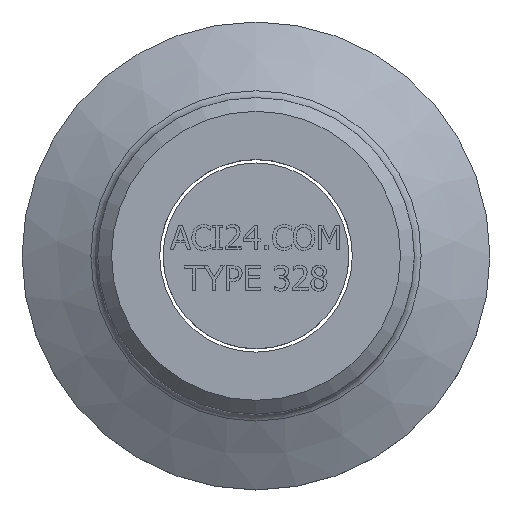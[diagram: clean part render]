
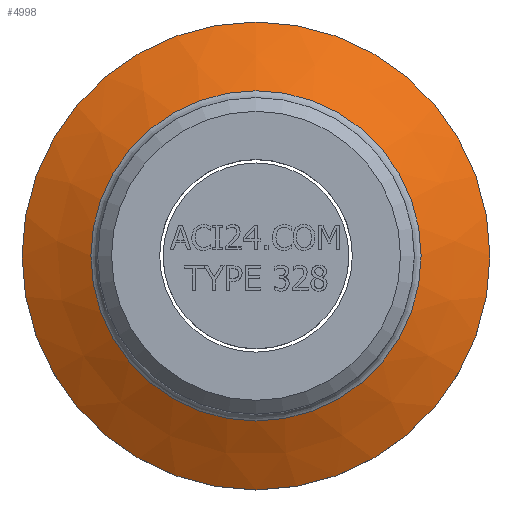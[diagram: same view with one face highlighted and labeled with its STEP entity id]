
A CAD part, top view. The second image highlights one B-rep face of the part: STEP entity #4998.
In plain terms, the highlighted conical face has half-angle 60 degrees and reference radius 14.25 mm.
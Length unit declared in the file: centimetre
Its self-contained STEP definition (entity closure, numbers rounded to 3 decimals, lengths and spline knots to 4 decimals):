
#15=CONICAL_SURFACE('',#5164,1.425,60.);
#30=CIRCLE('',#5163,1.2);
#31=CIRCLE('',#5165,1.7);
#87=FACE_BOUND('',#996,.T.);
#699=FACE_OUTER_BOUND('',#995,.T.);
#995=EDGE_LOOP('',(#4573));
#996=EDGE_LOOP('',(#4574));
#2433=VERTEX_POINT('',#8922);
#2434=VERTEX_POINT('',#8925);
#3149=EDGE_CURVE('',#2433,#2433,#30,.T.);
#3150=EDGE_CURVE('',#2434,#2434,#31,.T.);
#4573=ORIENTED_EDGE('',*,*,#3150,.T.);
#4574=ORIENTED_EDGE('',*,*,#3149,.F.);
#4998=ADVANCED_FACE('',(#699,#87),#15,.T.);
#5163=AXIS2_PLACEMENT_3D('',#8923,#5963,#5964);
#5164=AXIS2_PLACEMENT_3D('',#8924,#5965,#5966);
#5165=AXIS2_PLACEMENT_3D('',#8926,#5967,#5968);
#5963=DIRECTION('center_axis',(0.,0.,
1.));
#5964=DIRECTION('ref_axis',(0.,-1.,0.));
#5965=DIRECTION('center_axis',(0.,0.,
-1.));
#5966=DIRECTION('ref_axis',(0.,1.,0.));
#5967=DIRECTION('center_axis',(0.,0.,
1.));
#5968=DIRECTION('ref_axis',(-1.,0.,0.));
#8922=CARTESIAN_POINT('',(0.,1.2,0.1887));
#8923=CARTESIAN_POINT('Origin',(0.,0.,
0.1887));
#8924=CARTESIAN_POINT('Origin',(0.,0.,
0.0588));
#8925=CARTESIAN_POINT('',(0.,1.7,-0.1));
#8926=CARTESIAN_POINT('Origin',(0.,0.,
-0.1));
